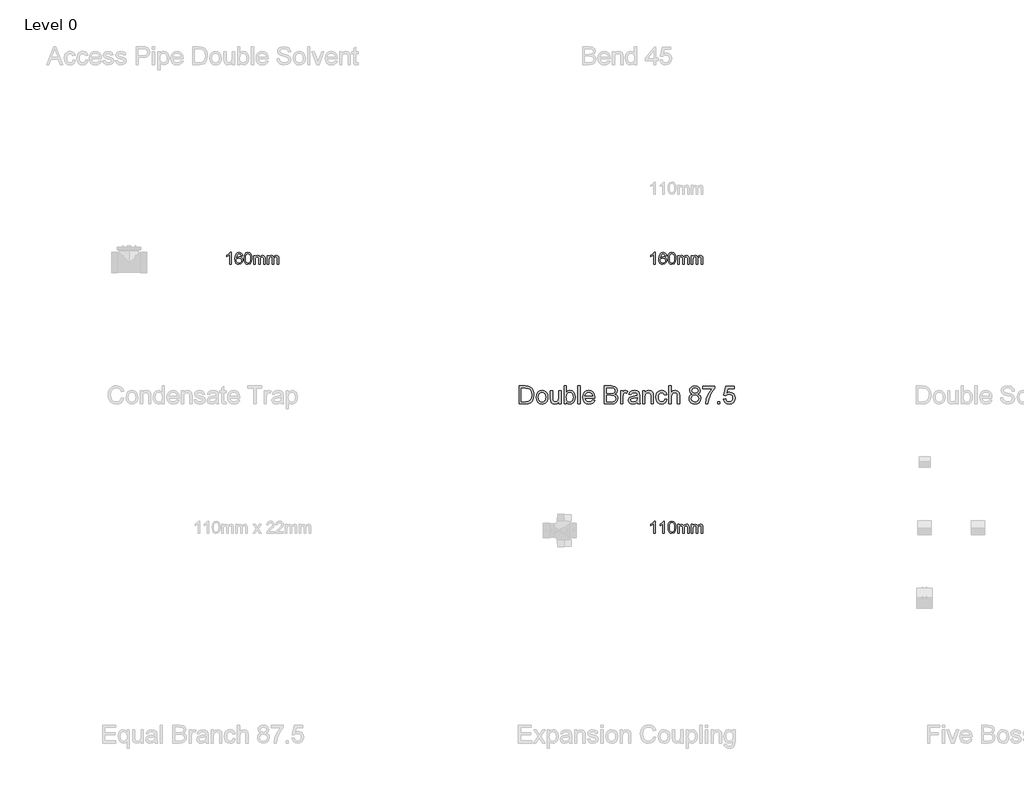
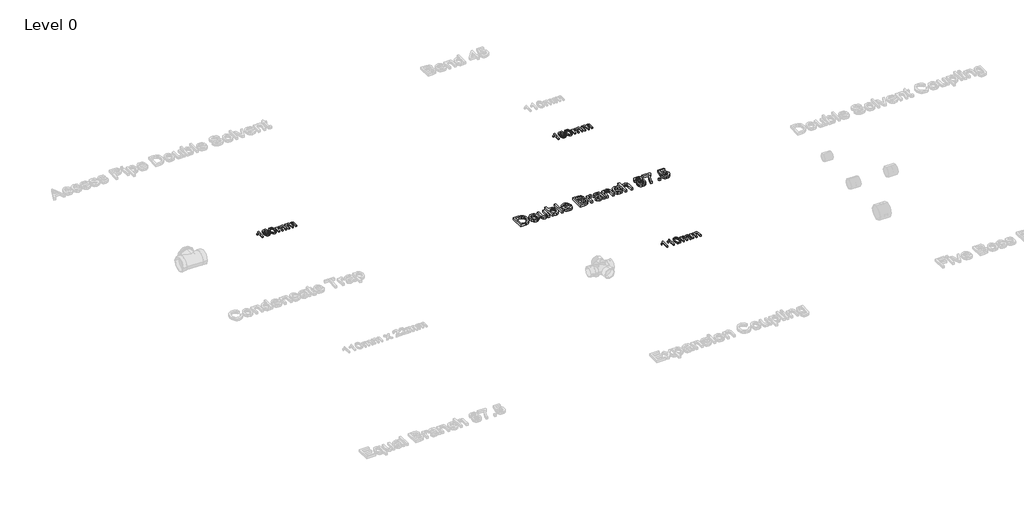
# One storey, part 23 of 28: 4 proxies.
"""IFC4 building model written with IfcOpenShell, lengths in millimetres."""

from ifc_helpers import new_model, si_unit, origin, origin_with_axes, place, context, project, spatial, polyline, outline, extrude, element, save

model = new_model("IFC4")

# Units and contexts
model_context = context("Model", 3, world=origin())
ifc_project = project(units=[si_unit("LENGTHUNIT", "METRE", prefix="MILLI")], contexts=[model_context])

# Site, building, storey
site = spatial("IfcSite", under=ifc_project)
building = spatial("IfcBuilding", under=site)
storey = spatial("IfcBuildingStorey", under=building, Name="Level 0", Elevation=0.0)

# Proxies
placement = place(None, origin())
element("IfcBuildingElementProxy", 1, Name="100mm Arial", ObjectType="100mm Arial", at=placement, inside=storey, context=model_context, shape_type="SweptSolid", body=[
    extrude(outline(polyline([(-6791.7293188, 7657.7167304), (-6804.0370111, 7657.7167304), (-6804.0370111, 7734.4474996), (-6815.6956649, 7726.1422111), (-6828.6523957, 7719.9282688), (-6828.6523957, 7731.5628842), (-6810.6115303, 7743.0773073), (-6799.6620111, 7756.1782688), (-6791.7293188, 7756.1782688), (-6791.7293188, 7657.7167304)])), origin_with_axes(), (0.0, 0.0, 1.0), 15.0),
    extrude(outline(polyline([(-6699.4216264, 7730.0244227), (-6711.7293188, 7728.4859611), (-6716.3927803, 7738.7503842), (-6728.7245111, 7743.8705765), (-6739.8302803, 7740.8898073), (-6748.2317226, 7729.6999035), (-6751.7293188, 7707.7648073), (-6740.8759534, 7717.5845188), (-6727.4264341, 7720.7936535), (-6716.0562418, 7718.6001438), (-6706.5129726, 7712.019615), (-6700.0406168, 7701.9655285), (-6697.8831649, 7689.3513458), (-6701.9456649, 7672.3681727), (-6713.1235495, 7660.3489419), (-6729.2533572, 7656.1782688), (-6743.2166986, 7658.9426919), (-6754.3374918, 7667.2359611), (-6761.6121313, 7681.8753842), (-6764.0370111, 7703.6782688), (-6761.3447034, 7728.19149), (-6753.2677803, 7744.9523073), (-6742.2401361, 7753.3717785), (-6727.9552803, 7756.1782688), (-6717.1560014, 7754.44149), (-6708.5081649, 7749.2311535), (-6702.4504726, 7740.9559131), (-6699.4216264, 7730.0244227)]), holes=[polyline([(-6751.7293188, 7689.5436535), (-6748.8807611, 7678.8825958), (-6741.3086457, 7671.1422111), (-6730.2148957, 7668.4859611), (-6722.0929005, 7669.8621631), (-6715.7076841, 7673.9907688), (-6711.5700639, 7680.4811535), (-6710.1908572, 7688.9426919), (-6711.5520351, 7697.0646871), (-6715.6355688, 7703.2575958), (-6730.7197034, 7708.4859611), (-6745.6115303, 7703.2575958), (-6750.1998716, 7697.2149275), (-6751.7293188, 7689.5436535)])]), origin_with_axes(), (0.0, 0.0, 1.0), 15.0),
    extrude(outline(polyline([(-6687.1139341, 7706.1542304), (-6683.4961457, 7734.4835573), (-6672.7509534, 7750.8176919), (-6654.8062418, 7756.1782688), (-6640.4312418, 7753.0051919), (-6630.5033572, 7743.8585573), (-6624.7341264, 7729.2912496), (-6622.4985495, 7706.1542304), (-6626.0802803, 7677.9450958), (-6636.7894149, 7661.5749035), (-6654.8062418, 7656.1782688), (-6667.5947034, 7658.5220188), (-6677.3062418, 7665.5532688), (-6684.6620111, 7682.2059131), (-6687.1139341, 7706.1542304)]), holes=[polyline([(-6674.8062418, 7706.1782688), (-6673.3639341, 7686.8182929), (-6669.0370111, 7675.613365), (-6662.5947034, 7670.2678121), (-6654.8062418, 7668.4859611), (-6647.0177803, 7670.2738217), (-6640.5754726, 7675.6374035), (-6636.2485495, 7686.848341), (-6634.8062418, 7706.1782688), (-6636.2004726, 7725.1025477), (-6640.3831649, 7736.394615), (-6646.8134534, 7742.0015861), (-6654.9504726, 7743.8705765), (-6662.6547995, 7742.2239419), (-6668.8447034, 7737.2840381), (-6673.3158572, 7725.2888458), (-6674.8062418, 7706.1782688)])]), origin_with_axes(), (0.0, 0.0, 1.0), 15.0),
    extrude(outline(polyline([(-6608.6523957, 7657.7167304), (-6608.6523957, 7730.0244227), (-6596.3447034, 7730.0244227), (-6596.3447034, 7718.1253842), (-6587.8831649, 7727.8729804), (-6575.8398957, 7731.5628842), (-6563.5081649, 7727.800865), (-6556.7293188, 7717.2599996), (-6547.1259534, 7727.9871631), (-6534.9985495, 7731.5628842), (-6525.7467466, 7730.0755044), (-6518.9047995, 7725.613365), (-6514.6770351, 7718.0562736), (-6513.2677803, 7707.2840381), (-6513.2677803, 7657.7167304), (-6525.5754726, 7657.7167304), (-6525.5754726, 7701.9955765), (-6526.7172995, 7712.2720188), (-6530.8519149, 7717.332115), (-6537.8831649, 7719.2551919), (-6549.9865303, 7714.3273073), (-6554.8062418, 7698.5340381), (-6554.8062418, 7657.7167304), (-6567.1139341, 7657.7167304), (-6567.1139341, 7703.3657688), (-6569.9624918, 7715.2888458), (-6579.3014341, 7719.2551919), (-6588.4120111, 7716.6109611), (-6594.4697034, 7708.8705765), (-6596.3447034, 7694.1830765), (-6596.3447034, 7657.7167304), (-6608.6523957, 7657.7167304)])), origin_with_axes(), (0.0, 0.0, 1.0), 15.0),
    extrude(outline(polyline([(-6494.8062418, 7657.7167304), (-6494.8062418, 7730.0244227), (-6482.4985495, 7730.0244227), (-6482.4985495, 7718.1253842), (-6474.0370111, 7727.8729804), (-6461.9937418, 7731.5628842), (-6449.6620111, 7727.800865), (-6442.8831649, 7717.2599996), (-6433.2797995, 7727.9871631), (-6421.1523957, 7731.5628842), (-6411.9005928, 7730.0755044), (-6405.0586457, 7725.613365), (-6400.8308813, 7718.0562736), (-6399.4216264, 7707.2840381), (-6399.4216264, 7657.7167304), (-6411.7293188, 7657.7167304), (-6411.7293188, 7701.9955765), (-6412.8711457, 7712.2720188), (-6417.0057611, 7717.332115), (-6424.0370111, 7719.2551919), (-6436.1403764, 7714.3273073), (-6440.960088, 7698.5340381), (-6440.960088, 7657.7167304), (-6453.2677803, 7657.7167304), (-6453.2677803, 7703.3657688), (-6456.116338, 7715.2888458), (-6465.4552803, 7719.2551919), (-6474.5658572, 7716.6109611), (-6480.6235495, 7708.8705765), (-6482.4985495, 7694.1830765), (-6482.4985495, 7657.7167304), (-6494.8062418, 7657.7167304)])), origin_with_axes(), (0.0, 0.0, 1.0), 15.0),
])
element("IfcBuildingElementProxy", 2, Name="100mm Arial", ObjectType="100mm Arial", at=placement, inside=storey, context=model_context, shape_type="SweptSolid", body=[
    extrude(outline(polyline([(-3291.7293188, 7657.7167304), (-3304.0370111, 7657.7167304), (-3304.0370111, 7734.4474996), (-3315.6956649, 7726.1422111), (-3328.6523957, 7719.9282688), (-3328.6523957, 7731.5628842), (-3310.6115303, 7743.0773073), (-3299.6620111, 7756.1782688), (-3291.7293188, 7756.1782688), (-3291.7293188, 7657.7167304)])), origin_with_axes(), (0.0, 0.0, 1.0), 15.0),
    extrude(outline(polyline([(-3199.4216264, 7730.0244227), (-3211.7293188, 7728.4859611), (-3216.3927803, 7738.7503842), (-3228.7245111, 7743.8705765), (-3239.8302803, 7740.8898073), (-3248.2317226, 7729.6999035), (-3251.7293188, 7707.7648073), (-3240.8759534, 7717.5845188), (-3227.4264341, 7720.7936535), (-3216.0562418, 7718.6001438), (-3206.5129726, 7712.019615), (-3200.0406168, 7701.9655285), (-3197.8831649, 7689.3513458), (-3201.9456649, 7672.3681727), (-3213.1235495, 7660.3489419), (-3229.2533572, 7656.1782688), (-3243.2166986, 7658.9426919), (-3254.3374918, 7667.2359611), (-3261.6121313, 7681.8753842), (-3264.0370111, 7703.6782688), (-3261.3447034, 7728.19149), (-3253.2677803, 7744.9523073), (-3242.2401361, 7753.3717785), (-3227.9552803, 7756.1782688), (-3217.1560014, 7754.44149), (-3208.5081649, 7749.2311535), (-3202.4504726, 7740.9559131), (-3199.4216264, 7730.0244227)]), holes=[polyline([(-3251.7293188, 7689.5436535), (-3248.8807611, 7678.8825958), (-3241.3086457, 7671.1422111), (-3230.2148957, 7668.4859611), (-3222.0929005, 7669.8621631), (-3215.7076841, 7673.9907688), (-3211.5700639, 7680.4811535), (-3210.1908572, 7688.9426919), (-3211.5520351, 7697.0646871), (-3215.6355688, 7703.2575958), (-3230.7197034, 7708.4859611), (-3245.6115303, 7703.2575958), (-3250.1998716, 7697.2149275), (-3251.7293188, 7689.5436535)])]), origin_with_axes(), (0.0, 0.0, 1.0), 15.0),
    extrude(outline(polyline([(-3187.1139341, 7706.1542304), (-3183.4961457, 7734.4835573), (-3172.7509534, 7750.8176919), (-3154.8062418, 7756.1782688), (-3140.4312418, 7753.0051919), (-3130.5033572, 7743.8585573), (-3124.7341264, 7729.2912496), (-3122.4985495, 7706.1542304), (-3126.0802803, 7677.9450958), (-3136.7894149, 7661.5749035), (-3154.8062418, 7656.1782688), (-3167.5947034, 7658.5220188), (-3177.3062418, 7665.5532688), (-3184.6620111, 7682.2059131), (-3187.1139341, 7706.1542304)]), holes=[polyline([(-3174.8062418, 7706.1782688), (-3173.3639341, 7686.8182929), (-3169.0370111, 7675.613365), (-3162.5947034, 7670.2678121), (-3154.8062418, 7668.4859611), (-3147.0177803, 7670.2738217), (-3140.5754726, 7675.6374035), (-3136.2485495, 7686.848341), (-3134.8062418, 7706.1782688), (-3136.2004726, 7725.1025477), (-3140.3831649, 7736.394615), (-3146.8134534, 7742.0015861), (-3154.9504726, 7743.8705765), (-3162.6547995, 7742.2239419), (-3168.8447034, 7737.2840381), (-3173.3158572, 7725.2888458), (-3174.8062418, 7706.1782688)])]), origin_with_axes(), (0.0, 0.0, 1.0), 15.0),
    extrude(outline(polyline([(-3108.6523957, 7657.7167304), (-3108.6523957, 7730.0244227), (-3096.3447034, 7730.0244227), (-3096.3447034, 7718.1253842), (-3087.8831649, 7727.8729804), (-3075.8398957, 7731.5628842), (-3063.5081649, 7727.800865), (-3056.7293188, 7717.2599996), (-3047.1259534, 7727.9871631), (-3034.9985495, 7731.5628842), (-3025.7467466, 7730.0755044), (-3018.9047995, 7725.613365), (-3014.6770351, 7718.0562736), (-3013.2677803, 7707.2840381), (-3013.2677803, 7657.7167304), (-3025.5754726, 7657.7167304), (-3025.5754726, 7701.9955765), (-3026.7172995, 7712.2720188), (-3030.8519149, 7717.332115), (-3037.8831649, 7719.2551919), (-3049.9865303, 7714.3273073), (-3054.8062418, 7698.5340381), (-3054.8062418, 7657.7167304), (-3067.1139341, 7657.7167304), (-3067.1139341, 7703.3657688), (-3069.9624918, 7715.2888458), (-3079.3014341, 7719.2551919), (-3088.4120111, 7716.6109611), (-3094.4697034, 7708.8705765), (-3096.3447034, 7694.1830765), (-3096.3447034, 7657.7167304), (-3108.6523957, 7657.7167304)])), origin_with_axes(), (0.0, 0.0, 1.0), 15.0),
    extrude(outline(polyline([(-2994.8062418, 7657.7167304), (-2994.8062418, 7730.0244227), (-2982.4985495, 7730.0244227), (-2982.4985495, 7718.1253842), (-2974.0370111, 7727.8729804), (-2961.9937418, 7731.5628842), (-2949.6620111, 7727.800865), (-2942.8831649, 7717.2599996), (-2933.2797995, 7727.9871631), (-2921.1523957, 7731.5628842), (-2911.9005928, 7730.0755044), (-2905.0586457, 7725.613365), (-2900.8308813, 7718.0562736), (-2899.4216264, 7707.2840381), (-2899.4216264, 7657.7167304), (-2911.7293188, 7657.7167304), (-2911.7293188, 7701.9955765), (-2912.8711457, 7712.2720188), (-2917.0057611, 7717.332115), (-2924.0370111, 7719.2551919), (-2936.1403764, 7714.3273073), (-2940.960088, 7698.5340381), (-2940.960088, 7657.7167304), (-2953.2677803, 7657.7167304), (-2953.2677803, 7703.3657688), (-2956.116338, 7715.2888458), (-2965.4552803, 7719.2551919), (-2974.5658572, 7716.6109611), (-2980.6235495, 7708.8705765), (-2982.4985495, 7694.1830765), (-2982.4985495, 7657.7167304), (-2994.8062418, 7657.7167304)])), origin_with_axes(), (0.0, 0.0, 1.0), 15.0),
])
element("IfcBuildingElementProxy", 3, Name="100mm Arial", ObjectType="100mm Arial", at=placement, inside=storey, context=model_context, shape_type="SweptSolid", body=[
    extrude(outline(polyline([(-3291.7293188, 5437.7167304), (-3304.0370111, 5437.7167304), (-3304.0370111, 5514.4474996), (-3315.6956649, 5506.1422111), (-3328.6523957, 5499.9282688), (-3328.6523957, 5511.5628842), (-3310.6115303, 5523.0773073), (-3299.6620111, 5536.1782688), (-3291.7293188, 5536.1782688), (-3291.7293188, 5437.7167304)])), origin_with_axes(), (0.0, 0.0, 1.0), 15.0),
    extrude(outline(polyline([(-3216.3447034, 5437.7167304), (-3228.6523957, 5437.7167304), (-3228.6523957, 5514.4474996), (-3240.3110495, 5506.1422111), (-3253.2677803, 5499.9282688), (-3253.2677803, 5511.5628842), (-3235.2269149, 5523.0773073), (-3224.2773957, 5536.1782688), (-3216.3447034, 5536.1782688), (-3216.3447034, 5437.7167304)])), origin_with_axes(), (0.0, 0.0, 1.0), 15.0),
    extrude(outline(polyline([(-3187.1139341, 5486.1542304), (-3183.4961457, 5514.4835573), (-3172.7509534, 5530.8176919), (-3154.8062418, 5536.1782688), (-3140.4312418, 5533.0051919), (-3130.5033572, 5523.8585573), (-3124.7341264, 5509.2912496), (-3122.4985495, 5486.1542304), (-3126.0802803, 5457.9450958), (-3136.7894149, 5441.5749035), (-3154.8062418, 5436.1782688), (-3167.5947034, 5438.5220188), (-3177.3062418, 5445.5532688), (-3184.6620111, 5462.2059131), (-3187.1139341, 5486.1542304)]), holes=[polyline([(-3174.8062418, 5486.1782688), (-3173.3639341, 5466.8182929), (-3169.0370111, 5455.613365), (-3162.5947034, 5450.2678121), (-3154.8062418, 5448.4859611), (-3147.0177803, 5450.2738217), (-3140.5754726, 5455.6374035), (-3136.2485495, 5466.848341), (-3134.8062418, 5486.1782688), (-3136.2004726, 5505.1025477), (-3140.3831649, 5516.394615), (-3146.8134534, 5522.0015861), (-3154.9504726, 5523.8705765), (-3162.6547995, 5522.2239419), (-3168.8447034, 5517.2840381), (-3173.3158572, 5505.2888458), (-3174.8062418, 5486.1782688)])]), origin_with_axes(), (0.0, 0.0, 1.0), 15.0),
    extrude(outline(polyline([(-3108.6523957, 5437.7167304), (-3108.6523957, 5510.0244227), (-3096.3447034, 5510.0244227), (-3096.3447034, 5498.1253842), (-3087.8831649, 5507.8729804), (-3075.8398957, 5511.5628842), (-3063.5081649, 5507.800865), (-3056.7293188, 5497.2599996), (-3047.1259534, 5507.9871631), (-3034.9985495, 5511.5628842), (-3025.7467466, 5510.0755044), (-3018.9047995, 5505.613365), (-3014.6770351, 5498.0562736), (-3013.2677803, 5487.2840381), (-3013.2677803, 5437.7167304), (-3025.5754726, 5437.7167304), (-3025.5754726, 5481.9955765), (-3026.7172995, 5492.2720188), (-3030.8519149, 5497.332115), (-3037.8831649, 5499.2551919), (-3049.9865303, 5494.3273073), (-3054.8062418, 5478.5340381), (-3054.8062418, 5437.7167304), (-3067.1139341, 5437.7167304), (-3067.1139341, 5483.3657688), (-3069.9624918, 5495.2888458), (-3079.3014341, 5499.2551919), (-3088.4120111, 5496.6109611), (-3094.4697034, 5488.8705765), (-3096.3447034, 5474.1830765), (-3096.3447034, 5437.7167304), (-3108.6523957, 5437.7167304)])), origin_with_axes(), (0.0, 0.0, 1.0), 15.0),
    extrude(outline(polyline([(-2994.8062418, 5437.7167304), (-2994.8062418, 5510.0244227), (-2982.4985495, 5510.0244227), (-2982.4985495, 5498.1253842), (-2974.0370111, 5507.8729804), (-2961.9937418, 5511.5628842), (-2949.6620111, 5507.800865), (-2942.8831649, 5497.2599996), (-2933.2797995, 5507.9871631), (-2921.1523957, 5511.5628842), (-2911.9005928, 5510.0755044), (-2905.0586457, 5505.613365), (-2900.8308813, 5498.0562736), (-2899.4216264, 5487.2840381), (-2899.4216264, 5437.7167304), (-2911.7293188, 5437.7167304), (-2911.7293188, 5481.9955765), (-2912.8711457, 5492.2720188), (-2917.0057611, 5497.332115), (-2924.0370111, 5499.2551919), (-2936.1403764, 5494.3273073), (-2940.960088, 5478.5340381), (-2940.960088, 5437.7167304), (-2953.2677803, 5437.7167304), (-2953.2677803, 5483.3657688), (-2956.116338, 5495.2888458), (-2965.4552803, 5499.2551919), (-2974.5658572, 5496.6109611), (-2980.6235495, 5488.8705765), (-2982.4985495, 5474.1830765), (-2982.4985495, 5437.7167304), (-2994.8062418, 5437.7167304)])), origin_with_axes(), (0.0, 0.0, 1.0), 15.0),
])
element("IfcBuildingElementProxy", 4, Name="150mm Arial", ObjectType="150mm Arial", at=placement, inside=storey, context=model_context, shape_type="SweptSolid", body=[
    extrude(outline(polyline([(-4416.3741435, 6505.2145219), (-4416.3741435, 6652.9068296), (-4365.4246243, 6652.9068296), (-4339.0664512, 6650.7794258), (-4317.3597204, 6640.2145219), (-4307.1463791, 6628.9645219), (-4299.8717397, 6614.9741373), (-4295.5177733, 6598.5138008), (-4294.0664512, 6579.853945), (-4297.9967397, 6550.0522623), (-4308.0928935, 6528.5438488), (-4321.5784704, 6515.1484161), (-4339.2287108, 6507.7385604), (-4362.9727012, 6505.2145219), (-4416.3741435, 6505.2145219)]), holes=[polyline([(-4397.912605, 6523.6760604), (-4365.2443358, 6523.6760604), (-4341.4823166, 6526.3443296), (-4327.7803935, 6533.8803873), (-4316.5484223, 6552.2157238), (-4312.5279897, 6580.1424065), (-4314.4976411, 6600.2625988), (-4320.4065954, 6615.1183681), (-4329.1370642, 6625.322695), (-4339.5712589, 6631.4885604), (-4365.7491435, 6634.4452911), (-4397.912605, 6634.4452911), (-4397.912605, 6523.6760604)])]), origin_with_axes(), (0.0, 0.0, 1.0), 25.0),
    extrude(outline(polyline([(-4275.6049127, 6559.4452911), (-4271.6115233, 6585.5961325), (-4259.631355, 6603.9765411), (-4244.8296723, 6612.9819498), (-4227.1073166, 6615.9837527), (-4207.7127853, 6612.3284041), (-4192.2214993, 6601.3623585), (-4182.0667517, 6583.9510003), (-4178.6818358, 6560.9597142), (-4180.17823, 6542.3088729), (-4184.6674127, 6528.1111565), (-4192.0186747, 6517.4786445), (-4202.101307, 6509.5234161), (-4214.076968, 6504.5609762), (-4227.1073166, 6502.9068296), (-4246.7362228, 6506.5486565), (-4262.20948, 6517.4741373), (-4272.2560546, 6535.2505796), (-4275.6049127, 6559.4452911)]), holes=[polyline([(-4257.1433743, 6559.4813488), (-4255.006956, 6542.7731157), (-4248.5977012, 6530.86957), (-4238.9522685, 6523.7436686), (-4227.1073166, 6521.3683681), (-4215.3164512, 6523.7571902), (-4205.6890473, 6530.9236565), (-4199.2797925, 6542.9849546), (-4197.1433743, 6560.0582719), (-4199.2933142, 6576.2797262), (-4205.7431339, 6588.0210123), (-4215.3840594, 6595.1469137), (-4227.1073166, 6597.5222142), (-4238.9522685, 6595.1559282), (-4248.5977012, 6588.05707), (-4255.006956, 6576.1805676), (-4257.1433743, 6559.4813488)])]), origin_with_axes(), (0.0, 0.0, 1.0), 25.0),
    extrude(outline(polyline([(-4088.6818358, 6505.2145219), (-4088.6818358, 6523.8563488), (-4103.1409704, 6508.1442094), (-4121.9991435, 6502.9068296), (-4139.3609223, 6506.5847142), (-4151.3320762, 6515.8154835), (-4156.8308743, 6529.4092335), (-4157.912605, 6546.572695), (-4157.912605, 6613.6760604), (-4139.4510666, 6613.6760604), (-4139.4510666, 6555.2625988), (-4138.3332781, 6536.4404835), (-4131.0315954, 6525.3888008), (-4117.2755858, 6521.3683681), (-4101.8609223, 6525.478945), (-4091.6746243, 6536.6748585), (-4088.6818358, 6557.2457719), (-4088.6818358, 6613.6760604), (-4070.2202973, 6613.6760604), (-4070.2202973, 6505.2145219), (-4088.6818358, 6505.2145219)])), origin_with_axes(), (0.0, 0.0, 1.0), 25.0),
    extrude(outline(polyline([(-4026.3741435, 6505.2145219), (-4044.835682, 6505.2145219), (-4044.835682, 6652.9068296), (-4026.3741435, 6652.9068296), (-4026.3741435, 6598.135195), (-4013.4474608, 6611.5216133), (-3997.3837589, 6615.9837527), (-3978.8861627, 6611.96332), (-3964.5352012, 6600.6592335), (-3955.7190954, 6583.0811085), (-3952.5279897, 6561.0678873), (-3955.8317757, 6536.4224546), (-3965.7431339, 6518.0871181), (-3980.2879055, 6506.7019017), (-3997.491932, 6502.9068296), (-4013.9071964, 6507.8016613), (-4026.3741435, 6522.4861565), (-4026.3741435, 6505.2145219)]), holes=[polyline([(-4026.3741435, 6560.2025027), (-4025.1121243, 6544.8058681), (-4021.3260666, 6534.385195), (-4011.6535906, 6524.6225748), (-3999.0784704, 6521.3683681), (-3988.4234223, 6523.7662046), (-3979.318855, 6530.9597142), (-3973.0718598, 6542.9038248), (-3970.9895281, 6559.5534642), (-3972.9862228, 6576.4464931), (-3978.976307, 6588.2553873), (-3987.7969199, 6595.2055075), (-3998.2852012, 6597.5222142), (-4008.9402493, 6595.1243777), (-4018.0448166, 6587.9308681), (-4024.2918118, 6576.2031036), (-4026.3741435, 6560.2025027)])]), origin_with_axes(), (0.0, 0.0, 1.0), 25.0),
    extrude(outline(polyline([(-3931.7587589, 6505.2145219), (-3931.7587589, 6652.9068296), (-3913.2972204, 6652.9068296), (-3913.2972204, 6505.2145219), (-3931.7587589, 6505.2145219)])), origin_with_axes(), (0.0, 0.0, 1.0), 25.0),
    extrude(outline(polyline([(-3809.6674127, 6537.5222142), (-3791.5664512, 6535.2145219), (-3798.0883863, 6521.5756998), (-3808.4955377, 6511.3803873), (-3822.5535305, 6505.025219), (-3840.0279897, 6502.9068296), (-3861.6896483, 6506.5621782), (-3878.3573166, 6517.5282238), (-3888.9853214, 6535.0928272), (-3892.5279897, 6558.5438488), (-3888.9492637, 6582.7836325), (-3878.2130858, 6600.9116373), (-3861.7707781, 6612.2157238), (-3841.0736627, 6615.9837527), (-3821.0210786, 6612.2247383), (-3804.9979416, 6600.947695), (-3794.4916315, 6582.8557479), (-3790.9895281, 6558.6520219), (-3791.0977012, 6553.6760604), (-3874.0664512, 6553.6760604), (-3870.8708382, 6539.8569498), (-3863.4474608, 6529.697695), (-3852.733819, 6523.4506998), (-3839.6674127, 6521.3683681), (-3821.5664512, 6525.2265411), (-3809.6674127, 6537.5222142)]), holes=[polyline([(-3874.0664512, 6572.1375988), (-3809.4510666, 6572.1375988), (-3811.9480618, 6581.8912046), (-3816.8428935, 6588.8683681), (-3827.6061147, 6595.3587527), (-3841.1457781, 6597.5222142), (-3853.5901892, 6595.7959522), (-3863.8801531, 6590.6171661), (-3871.0330978, 6582.5447503), (-3874.0664512, 6572.1375988)])]), origin_with_axes(), (0.0, 0.0, 1.0), 25.0),
    extrude(outline(polyline([(-3712.5279897, 6505.2145219), (-3712.5279897, 6652.9068296), (-3656.1698166, 6652.9068296), (-3628.5676531, 6648.5618777), (-3619.2918118, 6643.049558), (-3612.2695762, 6635.2025027), (-3606.3741435, 6616.3082719), (-3611.3320762, 6599.0546661), (-3626.3140473, 6585.9837527), (-3615.8528094, 6580.5210123), (-3608.1229416, 6572.2097142), (-3603.3498046, 6561.5997383), (-3601.7587589, 6549.2409642), (-3606.1037108, 6529.3912046), (-3616.866932, 6515.2565892), (-3632.9306339, 6507.7565892), (-3656.6025089, 6505.2145219), (-3712.5279897, 6505.2145219)]), holes=[polyline([(-3694.0664512, 6523.6760604), (-3656.2058743, 6523.6760604), (-3642.5039512, 6524.3972142), (-3630.9114031, 6528.4176469), (-3623.2311147, 6536.6207719), (-3620.2202973, 6549.0606758), (-3623.7539512, 6563.4116373), (-3635.2022685, 6571.9753392), (-3658.0087589, 6574.4452911), (-3694.0664512, 6574.4452911), (-3694.0664512, 6523.6760604)]), polyline([(-3694.0664512, 6592.9068296), (-3660.3525089, 6592.9068296), (-3640.6650089, 6594.4933681), (-3628.820057, 6601.3263008), (-3624.835682, 6613.3515411), (-3628.5496243, 6625.3948104), (-3639.1866435, 6632.5162046), (-3662.912605, 6634.4452911), (-3694.0664512, 6634.4452911), (-3694.0664512, 6592.9068296)])]), origin_with_axes(), (0.0, 0.0, 1.0), 25.0),
    extrude(outline(polyline([(-3578.6818358, 6505.2145219), (-3578.6818358, 6613.6760604), (-3562.5279897, 6613.6760604), (-3562.5279897, 6597.6303873), (-3551.0616435, 6612.4140411), (-3539.523182, 6615.9837527), (-3520.9895281, 6610.2866373), (-3527.1553935, 6593.7361565), (-3540.1361627, 6597.5222142), (-3550.5748647, 6593.8803873), (-3557.2275089, 6583.7842335), (-3560.2202973, 6562.2217335), (-3560.2202973, 6505.2145219), (-3578.6818358, 6505.2145219)])), origin_with_axes(), (0.0, 0.0, 1.0), 25.0),
    extrude(outline(polyline([(-3440.2202973, 6519.0606758), (-3458.1229416, 6506.5486565), (-3477.9005858, 6502.9068296), (-3493.3287709, 6505.0973344), (-3504.70948, 6511.6688488), (-3511.7272084, 6521.6478152), (-3514.0664512, 6534.0606758), (-3510.5327973, 6548.6640411), (-3501.2479416, 6559.2650027), (-3488.3212589, 6565.322695), (-3472.3477012, 6568.0991373), (-3440.3284704, 6574.4452911), (-3440.2202973, 6578.5558681), (-3441.491331, 6586.7950508), (-3445.304432, 6592.1856758), (-3453.8320762, 6596.1880796), (-3465.7130858, 6597.5222142), (-3484.3909704, 6593.9705315), (-3493.2972204, 6581.3683681), (-3511.7587589, 6583.6760604), (-3503.77198, 6601.7049065), (-3487.6902493, 6612.2698104), (-3463.3332781, 6615.9837527), (-3440.95948, 6612.7025027), (-3428.3212589, 6604.46332), (-3422.6602012, 6591.9332719), (-3421.7587589, 6575.7794258), (-3421.7587589, 6552.8106758), (-3420.8212589, 6520.7373585), (-3417.1433743, 6505.2145219), (-3435.6049127, 6505.2145219), (-3440.2202973, 6519.0606758)]), holes=[polyline([(-3440.2202973, 6555.9837527), (-3470.0039512, 6550.322695), (-3485.8873647, 6547.3299065), (-3493.0808743, 6542.4621181), (-3495.6049127, 6535.3587527), (-3490.1061147, 6525.3707719), (-3473.9702973, 6521.3683681), (-3455.2924127, 6525.7854354), (-3443.2491435, 6536.4765411), (-3440.3284704, 6550.7553873), (-3440.2202973, 6555.9837527)])]), origin_with_axes(), (0.0, 0.0, 1.0), 25.0),
    extrude(outline(polyline([(-3396.3741435, 6505.2145219), (-3396.3741435, 6613.6760604), (-3377.912605, 6613.6760604), (-3377.912605, 6598.5318296), (-3363.7960185, 6611.6207719), (-3344.523182, 6615.9837527), (-3327.0892877, 6612.4681277), (-3315.1902493, 6603.2373585), (-3309.6553935, 6589.6616373), (-3308.6818358, 6571.8130796), (-3308.6818358, 6505.2145219), (-3327.1433743, 6505.2145219), (-3327.1433743, 6569.3250988), (-3329.2707781, 6585.6592335), (-3336.788807, 6594.2950508), (-3349.4630858, 6597.5222142), (-3360.2758863, 6595.7103152), (-3369.4931339, 6590.2746181), (-3375.8077372, 6579.7728152), (-3377.912605, 6562.7625988), (-3377.912605, 6505.2145219), (-3396.3741435, 6505.2145219)])), origin_with_axes(), (0.0, 0.0, 1.0), 25.0),
    extrude(outline(polyline([(-3214.0664512, 6544.4452911), (-3195.6049127, 6542.1375988), (-3200.7521483, 6525.7178272), (-3210.4246243, 6513.3094738), (-3223.7118839, 6505.5074907), (-3239.7034704, 6502.9068296), (-3259.3413911, 6506.5351349), (-3274.6974608, 6517.4200508), (-3284.608819, 6535.0838128), (-3287.912605, 6559.0486565), (-3282.2695762, 6589.7157238), (-3275.148182, 6601.2136205), (-3265.070057, 6609.4212527), (-3253.0132661, 6614.3431277), (-3239.9558743, 6615.9837527), (-3224.3564151, 6613.7301469), (-3211.8849608, 6606.9693296), (-3202.9381459, 6596.0618777), (-3197.912605, 6581.3683681), (-3216.3741435, 6579.0606758), (-3224.9378454, 6592.8888008), (-3239.8116435, 6597.5222142), (-3251.7422324, 6595.2415652), (-3261.2118839, 6588.3996181), (-3267.3912709, 6576.6267815), (-3269.4510666, 6559.5534642), (-3267.436343, 6542.2502791), (-3261.3921723, 6530.4368777), (-3252.0937949, 6523.6354955), (-3240.3164512, 6521.3683681), (-3230.7566555, 6522.7836325), (-3222.9186147, 6527.0294258), (-3217.2169921, 6534.213921), (-3214.0664512, 6544.4452911)])), origin_with_axes(), (0.0, 0.0, 1.0), 25.0),
    extrude(outline(polyline([(-3179.4510666, 6505.2145219), (-3179.4510666, 6652.9068296), (-3160.9895281, 6652.9068296), (-3160.9895281, 6598.603945), (-3146.5934945, 6611.6388008), (-3128.8621243, 6615.9837527), (-3108.1289512, 6611.2421661), (-3095.5448166, 6598.135195), (-3091.7587589, 6573.8683681), (-3091.7587589, 6505.2145219), (-3110.2202973, 6505.2145219), (-3110.2202973, 6571.9573104), (-3111.6896483, 6583.5138008), (-3116.0977012, 6591.4284642), (-3123.2010666, 6595.9987767), (-3132.756355, 6597.5222142), (-3147.882557, 6593.4116373), (-3157.9787108, 6582.2698104), (-3160.9895281, 6562.8347142), (-3160.9895281, 6505.2145219), (-3179.4510666, 6505.2145219)])), origin_with_axes(), (0.0, 0.0, 1.0), 25.0),
    extrude(outline(polyline([(-2986.398182, 6586.5606758), (-3003.2190954, 6598.0270219), (-3008.6818358, 6615.8755796), (-3005.7070762, 6630.307671), (-2996.7827973, 6642.2337527), (-2982.9096002, 6650.2385604), (-2965.0880858, 6652.9068296), (-2947.1583983, 6650.1754594), (-2933.1049127, 6641.9813488), (-2924.0183743, 6629.8659642), (-2920.9895281, 6615.3707719), (-2926.3801531, 6597.9729354), (-2942.7323166, 6586.5606758), (-2931.3696363, 6580.705808), (-2923.0989031, 6572.0835123), (-2918.0553334, 6561.1084522), (-2916.3741435, 6548.1952911), (-2919.70948, 6530.5450508), (-2929.7154897, 6515.9597142), (-2945.1662108, 6506.1700508), (-2964.835682, 6502.9068296), (-2984.5051531, 6506.1835724), (-2999.9558743, 6516.0138008), (-3009.9618839, 6530.7388609), (-3013.2972204, 6548.7000988), (-3011.5484223, 6562.1135604), (-3006.3020281, 6573.1472142), (-2997.8284704, 6581.4224546), (-2986.398182, 6586.5606758)]), holes=[polyline([(-2994.835682, 6549.3491373), (-2991.7527493, 6535.4488969), (-2980.8452973, 6525.0462527), (-2964.6914512, 6521.3683681), (-2952.1253454, 6523.3019618), (-2942.6962589, 6529.1027431), (-2936.8008262, 6537.8872984), (-2934.835682, 6548.7722142), (-2936.8639272, 6559.8419258), (-2942.9486627, 6568.8202911), (-2952.5940954, 6574.7698104), (-2965.304432, 6576.7529835), (-2977.6947565, 6574.7968536), (-2987.0291916, 6568.9284642), (-2992.8840594, 6560.1213729), (-2994.835682, 6549.3491373)]), polyline([(-2990.2202973, 6615.3347142), (-2988.5841796, 6607.27582), (-2983.6758262, 6600.8395219), (-2975.639468, 6596.6207719), (-2964.6193358, 6595.2145219), (-2953.8561147, 6596.6117575), (-2945.9414512, 6600.8034642), (-2941.0736627, 6607.0234161), (-2939.4510666, 6614.5053873), (-2941.1277493, 6622.2713128), (-2946.1577973, 6628.6940892), (-2954.1806339, 6633.0074907), (-2964.835682, 6634.4452911), (-2975.5583382, 6633.0390411), (-2983.5676531, 6628.8202911), (-2988.5571363, 6622.6363969), (-2990.2202973, 6615.3347142)])]), origin_with_axes(), (0.0, 0.0, 1.0), 25.0),
    extrude(outline(polyline([(-2900.2202973, 6632.1375988), (-2900.2202973, 6650.5991373), (-2803.2972204, 6650.5991373), (-2803.2972204, 6635.6712527), (-2830.7912108, 6595.9537046), (-2851.8308743, 6545.3467335), (-2858.6818358, 6505.2145219), (-2877.1433743, 6505.2145219), (-2869.8056339, 6546.8611565), (-2849.6674127, 6593.9344738), (-2821.7587589, 6632.1375988), (-2900.2202973, 6632.1375988)])), origin_with_axes(), (0.0, 0.0, 1.0), 25.0),
    extrude(outline(polyline([(-2777.912605, 6505.2145219), (-2777.912605, 6523.6760604), (-2759.4510666, 6523.6760604), (-2759.4510666, 6505.2145219), (-2777.912605, 6505.2145219)])), origin_with_axes(), (0.0, 0.0, 1.0), 25.0),
    extrude(outline(polyline([(-2729.4510666, 6544.4452911), (-2710.9895281, 6546.7529835), (-2707.600105, 6535.6697503), (-2701.6866435, 6527.7325508), (-2693.2761868, 6522.9594137), (-2682.3957781, 6521.3683681), (-2669.162605, 6523.5814089), (-2659.2467397, 6530.2205315), (-2653.053831, 6540.5195099), (-2650.9895281, 6553.7121181), (-2652.9231219, 6566.1339931), (-2658.7239031, 6575.635195), (-2668.436944, 6581.665844), (-2682.1073166, 6583.6760604), (-2698.3152493, 6580.4669258), (-2708.6818358, 6572.1375988), (-2727.1433743, 6574.4452911), (-2710.9895281, 6650.5991373), (-2639.4510666, 6650.5991373), (-2639.4510666, 6632.1375988), (-2696.0616435, 6632.1375988), (-2703.9582781, 6591.4645219), (-2690.7701772, 6599.4693296), (-2676.9510666, 6602.1375988), (-2659.701968, 6598.8293056), (-2645.382557, 6588.9044258), (-2635.7416315, 6573.7782238), (-2632.5279897, 6554.8659642), (-2635.4216195, 6536.4044258), (-2644.1025089, 6520.6111565), (-2660.725105, 6507.3329113), (-2682.4678935, 6502.9068296), (-2700.6004055, 6505.7508801), (-2715.0460185, 6514.2830315), (-2724.9483622, 6527.5116974), (-2729.4510666, 6544.4452911)])), origin_with_axes(), (0.0, 0.0, 1.0), 25.0),
])

save(model, "model.ifc")
